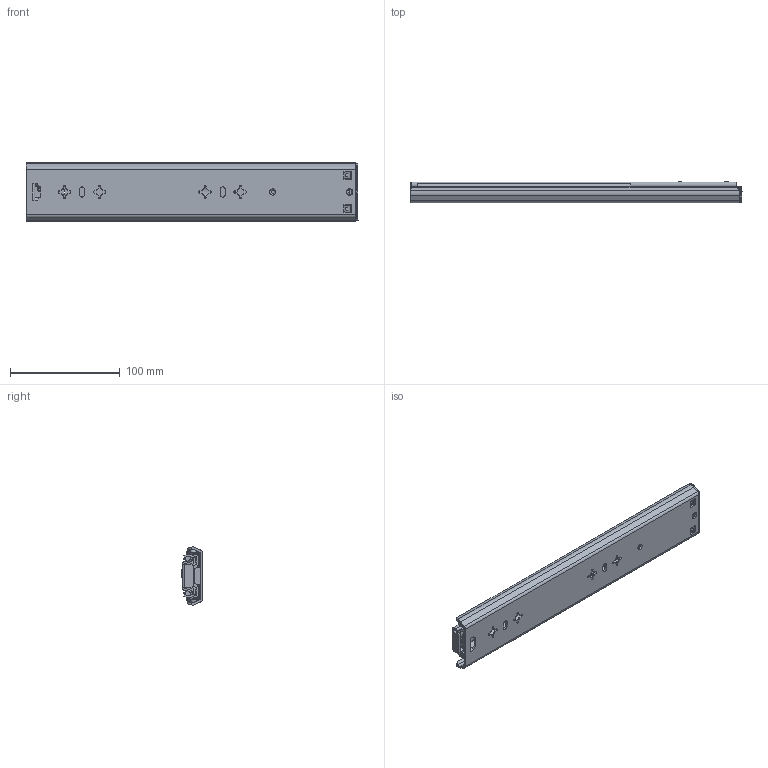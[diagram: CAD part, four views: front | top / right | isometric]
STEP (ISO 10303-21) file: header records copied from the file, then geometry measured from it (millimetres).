
FILE_DESCRIPTION((''),'2;1');
FILE_NAME('1053-HD-300_ASM','2023-11-18T',('jishu015'),(''),'PRO/ENGINEER BY PARAMETRIC TECHNOLOGY CORPORATION, 2010280','PRO/ENGINEER BY PARAMETRIC TECHNOLOGY CORPORATION, 2010280','');
FILE_SCHEMA(('CONFIG_CONTROL_DESIGN'));
Products named in the file (25): 1053-02-18WAIKE__________; MANIFOLD_SOLID_BREP_51___; MANIFOLD_SOLID_BREP_52___; MANIFOLD_SOLID_BREP_53___; ADMI29141B9BC7PD_ASM____ASM; ASM0001____ASM; 53_ASM____ASM; 1053-02-18XTPJG-DAZHUJIA_______; 1053-02-18XTPJG-5-6GANZHU1; ZHONGGUIJIAO-11_____; 1053-02-18XTPJG-DAZHUJIA1_ASM; 1053-02-18WAIKE___________ASM; 1053-02-18ZHONGGUI__________; 53ZHIDIJIAO__________; 3X6-MAODING___; 1053-02-18ZHONGGUI___________ASM; 1053XIAOZHUJIA-14GE__________; 53-5-6GANZHU__________; 1053XIAOZHUJIA-14GE___________ASM; 1053-02-18NEIGUI__________; 53BACHA_________; XIAOMAODING___; 3X4MAODING___; 1053-02-18NEIGUI___________ASM; 1053-HD-300_ASM
Assembly tree (51 placements, depth 6):
  1053-HD-300_ASM
    1053-02-18WAIKE___________ASM
      1053-02-18WAIKE__________
      53_ASM____ASM
        ASM0001____ASM
          ADMI29141B9BC7PD_ASM____ASM
            MANIFOLD_SOLID_BREP_51___
            MANIFOLD_SOLID_BREP_52___
            MANIFOLD_SOLID_BREP_53___
      1053-02-18XTPJG-DAZHUJIA1_ASM
        1053-02-18XTPJG-DAZHUJIA_______
        1053-02-18XTPJG-5-6GANZHU1  x12
        ZHONGGUIJIAO-11_____  x2
    1053-02-18ZHONGGUI___________ASM
      1053-02-18ZHONGGUI__________
      53ZHIDIJIAO__________
      3X6-MAODING___
    1053XIAOZHUJIA-14GE___________ASM
      1053XIAOZHUJIA-14GE__________
      53-5-6GANZHU__________  x16
    1053-02-18NEIGUI___________ASM
      1053-02-18NEIGUI__________
      53BACHA_________
      XIAOMAODING___
      3X4MAODING___
Bounding box: 302.1 x 19.75 x 53 mm (x, y, z)
Volume: 117490.1 mm3; surface area: 144063.8 mm2
Topology: 43 solids, 43 shells, 2433 faces, 6726 edges, 4252 vertices
Faces by surface type: plane 1090, cylinder 934, bspline 178, sphere 86, cone 83, torus 60, extrusion 2
Entity records: 92107 total; most frequent: CARTESIAN_POINT 33951, ORIENTED_EDGE 12638, DIRECTION 11324, EDGE_CURVE 6319, VERTEX_POINT 4074, AXIS2_PLACEMENT_3D 3806, VECTOR 3712, LINE 3710
